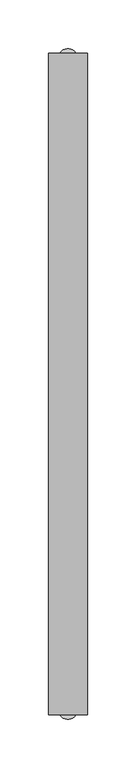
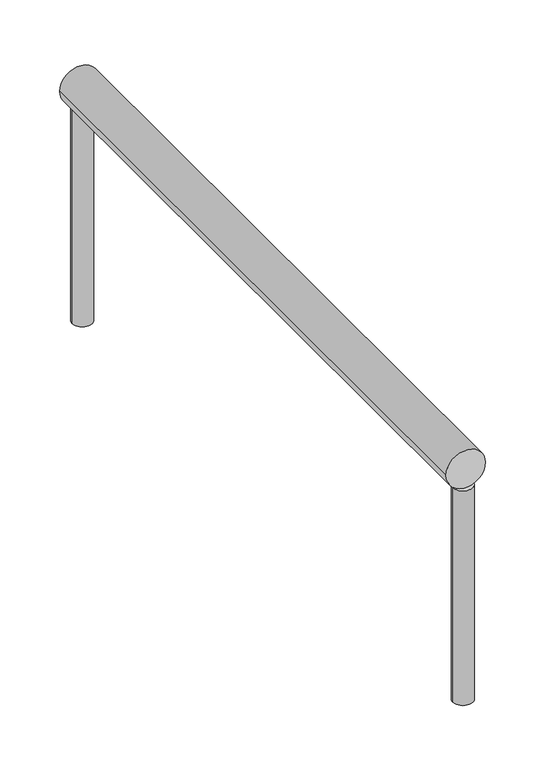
"""IFC4 building model written with IfcOpenShell, lengths in millimetres: railing geometry, Geländer-1."""

from ifc_helpers import new_model, si_unit, point, frame, frame_2d, origin, place, context, project, spatial, circle_curve, trimmed, segment, composite_curve, outline, extrude, source, transform, mapped, element, save


def railing_82520da3(model_context):
    return source(origin(), model_context, "Body", "SweptSolid", [
        extrude(outline(composite_curve([segment(trimmed(circle_curve(frame_2d((1700.0, 3615.0)), 20.0), [point((1700.0, 3635.0))], [point((1700.0, 3595.0))], False, "CARTESIAN"), True, "CONTINUOUS"), segment(trimmed(circle_curve(frame_2d((1700.0, 3615.0)), 20.0), [point((1700.0, 3595.0))], [point((1700.0, 3635.0))], False, "CARTESIAN"), True, "CONTINUOUS")], self_intersect=False)), frame((0.0, -607.3162614, 0.0), z_axis=(0.0, 1.0, 0.0), x_axis=(0.0, 0.0, 1.0)), (0.0, 0.0, 1.0), 680.0),
        extrude(outline(composite_curve([segment(trimmed(circle_curve(frame_2d((3615.0, -602.3162614)), 10.0), [point((3625.0, -602.3162614))], [point((3605.0, -602.3162614))], False, "CARTESIAN"), True, "CONTINUOUS"), segment(trimmed(circle_curve(frame_2d((3615.0, -602.3162614)), 10.0), [point((3605.0, -602.3162614))], [point((3625.0, -602.3162614))], False, "CARTESIAN"), True, "CONTINUOUS")], self_intersect=False)), frame((0.0, 0.0, 1450.0), z_axis=(0.0, 0.0, 1.0), x_axis=(1.0, 0.0, 0.0)), (0.0, 0.0, 1.0), 230.0),
        extrude(outline(composite_curve([segment(trimmed(circle_curve(frame_2d((3615.0, 67.6837386)), 10.0), [point((3625.0, 67.6837386))], [point((3605.0, 67.6837386))], False, "CARTESIAN"), True, "CONTINUOUS"), segment(trimmed(circle_curve(frame_2d((3615.0, 67.6837386)), 10.0), [point((3605.0, 67.6837386))], [point((3625.0, 67.6837386))], False, "CARTESIAN"), True, "CONTINUOUS")], self_intersect=False)), frame((0.0, 0.0, 1450.0), z_axis=(0.0, 0.0, 1.0), x_axis=(1.0, 0.0, 0.0)), (0.0, 0.0, 1.0), 230.0),
    ])


if __name__ == "__main__":
    model = new_model("IFC4")
    model_context = context("Model", 3, world=origin())
    ifc_project = project(units=[si_unit("LENGTHUNIT", "METRE", prefix="MILLI")], contexts=[model_context])
    site = spatial("IfcSite", under=ifc_project)
    building = spatial("IfcBuilding", under=site)
    placement = place(None, origin())
    railing_shape = railing_82520da3(model_context)
    element("IfcRailing", 1, ObjectType="Geländer-1", at=placement, inside=building, context=model_context, shape_type="MappedRepresentation", body=[
        mapped(railing_shape, transform((0.0, 0.0, 0.0), x_axis=(1.0, 0.0, 0.0), y_axis=(0.0, 1.0, 0.0), z_axis=(0.0, 0.0, 1.0))),
    ])
    save(model, "model.ifc")
